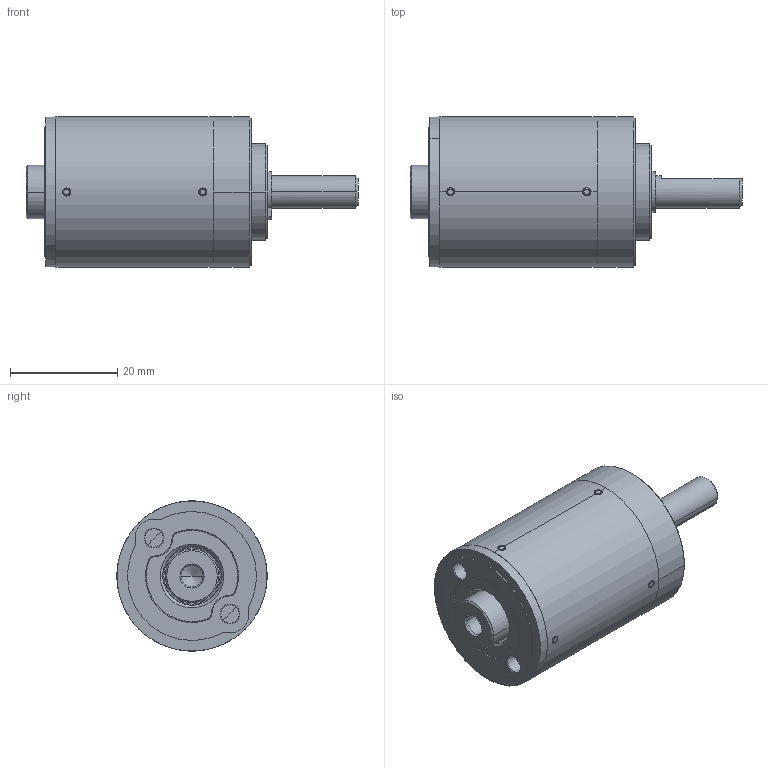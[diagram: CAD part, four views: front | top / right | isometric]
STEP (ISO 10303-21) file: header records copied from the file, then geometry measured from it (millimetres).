
FILE_DESCRIPTION((''),'2;1');
FILE_NAME('IMS28_PRO_MAX_LN_2_STAGE_ASM','2023-07-27T10:52:31',('mhummel'),(''),'CREO PARAMETRIC BY PTC INC, 2020184','CREO PARAMETRIC BY PTC INC, 2020184','');
FILE_SCHEMA(('AUTOMOTIVE_DESIGN { 1 0 10303 214 1 1 1 1 }'));
Length unit declared in the file: millimetre
Products named in the file (13): IMS28_PRO_MAX_LN_BEARING_FLANGE; IMS28_PRO_MAX_LN_BALL_BEARING; IMS28_PRO_MAX_LN_RINGGEAR2STAGE; IMS28_PRO_MAX_LN_MOTOR_FLANGE; IMS28_PRO_MAX_LN_SHAFT_RAW_AF0; IMS28_PRO_MAX_LN_SHAFT_ASM; IMS28_PRO_MAX_LN_SHIM_RING; IMS28_PRO_MAX_LN_RETAINING_RING; IMS28_PRO_MAX_LN_THRUST_WASHER; IMS28_PRO_MAX_LN_CYLINDER_PIN; IMS28_PRO_MAX_LN_MO_PINION_LONG; IMS28_PRO_MAX_LN_MOPINION_SHORT; IMS28_PRO_MAX_LN_2_STAGE_ASM
Assembly tree (20 placements, depth 3):
  IMS28_PRO_MAX_LN_2_STAGE_ASM
    IMS28_PRO_MAX_LN_BEARING_FLANGE
    IMS28_PRO_MAX_LN_BALL_BEARING  x2
    IMS28_PRO_MAX_LN_RINGGEAR2STAGE
    IMS28_PRO_MAX_LN_MOTOR_FLANGE
    IMS28_PRO_MAX_LN_SHAFT_ASM
      IMS28_PRO_MAX_LN_SHAFT_RAW_AF0
    IMS28_PRO_MAX_LN_SHIM_RING
    IMS28_PRO_MAX_LN_RETAINING_RING
    IMS28_PRO_MAX_LN_THRUST_WASHER
    IMS28_PRO_MAX_LN_CYLINDER_PIN  x8
    IMS28_PRO_MAX_LN_MO_PINION_LONG
    IMS28_PRO_MAX_LN_MOPINION_SHORT
Bounding box: 61.8 x 27.95 x 27.95 mm (x, y, z)
Volume: 17704.9 mm3; surface area: 15759.9 mm2
Topology: 23 solids, 25 shells, 404 faces, 894 edges, 539 vertices
Faces by surface type: cylinder 180, plane 82, torus 70, cone 40, revolution 32
Entity records: 12630 total; most frequent: CARTESIAN_POINT 2091, DIRECTION 1768, ORIENTED_EDGE 1428, AXIS2_PLACEMENT_3D 758, PRESENTATION_STYLE_ASSIGNMENT 745, STYLED_ITEM 741, CURVE_STYLE 714, EDGE_CURVE 714
